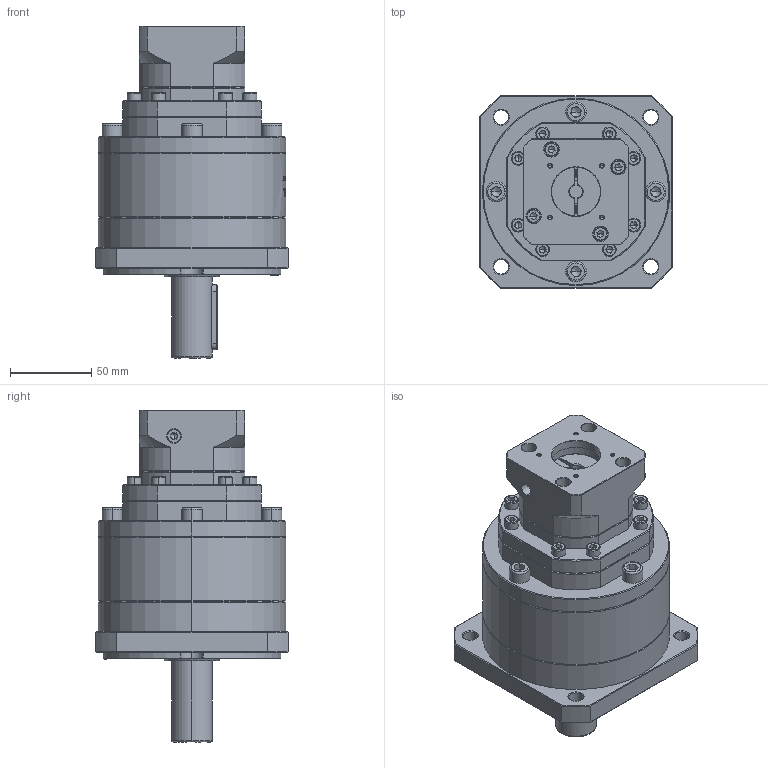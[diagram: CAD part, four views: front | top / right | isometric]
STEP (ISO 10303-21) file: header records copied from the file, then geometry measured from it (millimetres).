
FILE_DESCRIPTION (( 'STEP AP214' ), '1' );
FILE_NAME ('ZF120A-D25-L3-8-30-45-M3.step', '2023-03-07T15:55:08', ( '' ), ( 'Microsoft' ), 'SwSTEP 2.0', 'SolidWorks 2016', '' );
FILE_SCHEMA (( 'AUTOMOTIVE_DESIGN' ));
Length unit declared in the file: millimetre
Products named in the file (1): ZF120A-D25-L3-8-30-45-M3
Bounding box: 118 x 118 x 204 mm (x, y, z)
Volume: 1217418.6 mm3; surface area: 115837.8 mm2
Topology: 7 solids, 7 shells, 2081 faces, 5467 edges, 3489 vertices
Faces by surface type: plane 1002, cylinder 419, bspline 337, cone 301, torus 22
Entity records: 107317 total; most frequent: CARTESIAN_POINT 36816, ORIENTED_EDGE 10826, DIRECTION 8595, EDGE_CURVE 5413, VERTEX_POINT 3489, LINE 2995, VECTOR 2995, AXIS2_PLACEMENT_3D 2800
